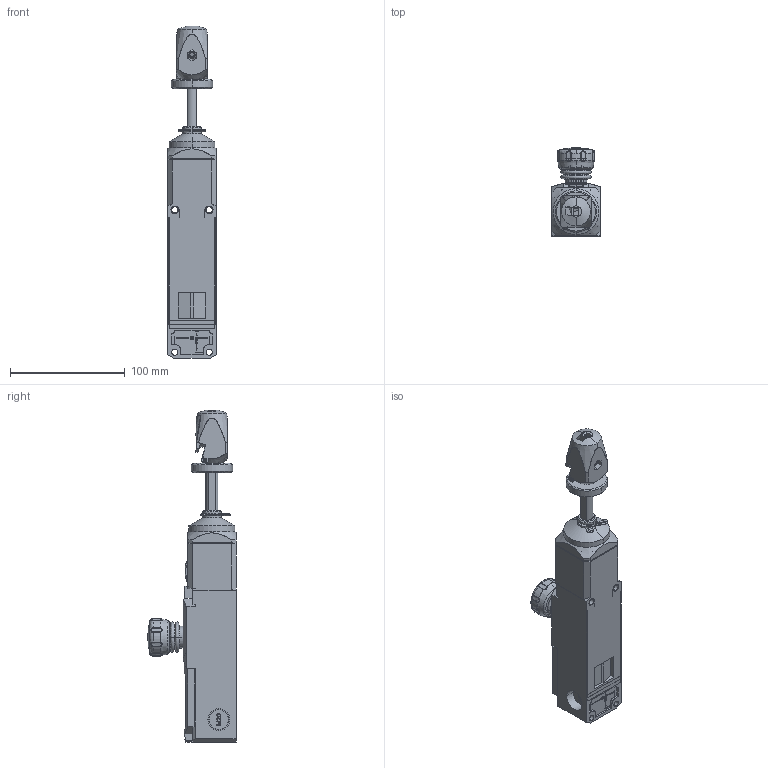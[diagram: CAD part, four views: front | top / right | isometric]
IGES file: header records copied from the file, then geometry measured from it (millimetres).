
Start section:  PTC IGES file: 2007548
Global section: file name: 2007548; native system: Creo Parametric by Parametric Technology Corporation; preprocessor: 2016100; author: merz; organization: Unknown; date: 20190717.141435; units: millimetre
Bounding box: 42.5 x 76.9 x 289.1 mm (x, y, z)
Surface area: 136822.5 mm2 (no closed solid volume)
Topology: 0 solids, 0 shells, 3490 faces, 19534 edges, 19417 vertices
Faces by surface type: bspline 1983, revolution 1495, extrusion 12
